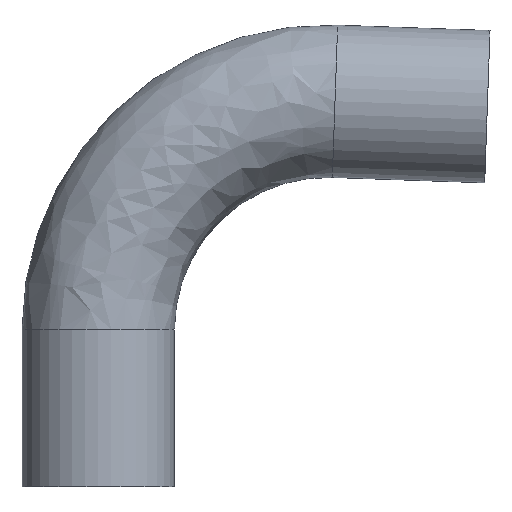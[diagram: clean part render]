
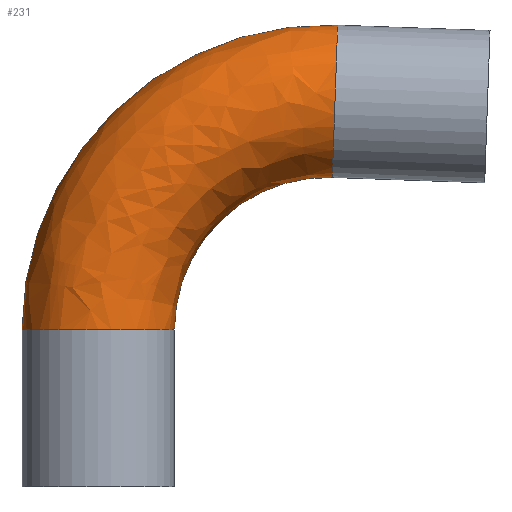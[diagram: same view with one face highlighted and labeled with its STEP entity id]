
A CAD part, top view. The second image highlights one B-rep face of the part: STEP entity #231.
In plain terms, the highlighted free-form (B-spline) face has degree [3, 3] with [4, 4] control points.
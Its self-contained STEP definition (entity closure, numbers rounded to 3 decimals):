
#7 = CARTESIAN_POINT ( 'NONE',  ( 0., 39.165, 0. ) ) ;
#42 = VERTEX_POINT ( 'NONE', #246 ) ;
#44 = CARTESIAN_POINT ( 'NONE',  ( 59.861, 115.368, 0. ) ) ;
#61 = ORIENTED_EDGE ( 'NONE', *, *, #108, .T. ) ;
#74 = CARTESIAN_POINT ( 'NONE',  ( 19.05, 62.136, 0. ) ) ;
#82 = CARTESIAN_POINT ( 'NONE',  ( 58.531, 77.292, 38.1 ) ) ;
#83 = VERTEX_POINT ( 'NONE', #374 ) ;
#94 = CARTESIAN_POINT ( 'NONE',  ( 19.05, 39.165, 0. ) ) ;
#95 = CIRCLE ( 'NONE', #260, 19.05 ) ;
#108 = EDGE_CURVE ( 'NONE', #411, #42, #95, .T. ) ;
#110 = CARTESIAN_POINT ( 'NONE',  ( 59.196, 96.33, 0. ) ) ;
#114 = EDGE_CURVE ( 'NONE', #83, #411, #350, .T. ) ;
#118 = DIRECTION ( 'NONE',  ( -0.999, 0.035, 0. ) ) ;
#122 = CARTESIAN_POINT ( 'NONE',  ( 59.861, 115.368, 38.1 ) ) ;
#138 = DIRECTION ( 'NONE',  ( 0., 1., 0. ) ) ;
#141 = DIRECTION ( 'NONE',  ( -1., 0., 0. ) ) ;
#145 = CARTESIAN_POINT ( 'NONE',  ( 58.531, 77.292, 0. ) ) ;
#147 = VERTEX_POINT ( 'NONE', #157 ) ;
#157 = CARTESIAN_POINT ( 'NONE',  ( -19.05, 39.165, 0. ) ) ;
#178 = CARTESIAN_POINT ( 'NONE',  ( 57.2, 39.165, 0. ) ) ;
#190 = AXIS2_PLACEMENT_3D ( 'NONE', #7, #138, #141 ) ;
#201 = ORIENTED_EDGE ( 'NONE', *, *, #114, .T. ) ;
#203 = CARTESIAN_POINT ( 'NONE',  ( 58.531, 77.292, 0. ) ) ;
#209 = DIRECTION ( 'NONE',  ( 0.035, 0.999, 0. ) ) ;
#214 = AXIS2_PLACEMENT_3D ( 'NONE', #325, #373, #331 ) ;
#231 = ADVANCED_FACE ( 'NONE', ( #369 ), #327, .T. ) ;
#239 = CARTESIAN_POINT ( 'NONE',  ( 19.05, 39.165, 38.1 ) ) ;
#246 = CARTESIAN_POINT ( 'NONE',  ( 59.861, 115.368, 0. ) ) ;
#247 = AXIS2_PLACEMENT_3D ( 'NONE', #178, #286, #304 ) ;
#260 = AXIS2_PLACEMENT_3D ( 'NONE', #110, #118, #209 ) ;
#271 = CIRCLE ( 'NONE', #190, 19.05 ) ;
#286 = DIRECTION ( 'NONE',  ( 0., 0., -1. ) ) ;
#304 = DIRECTION ( 'NONE',  ( -1., 0., 0. ) ) ;
#324 = EDGE_CURVE ( 'NONE', #147, #83, #271, .T. ) ;
#325 = CARTESIAN_POINT ( 'NONE',  ( 57.2, 39.165, 0. ) ) ;
#326 = CARTESIAN_POINT ( 'NONE',  ( 19.05, 62.136, 38.1 ) ) ;
#327 =( BOUNDED_SURFACE ( )  B_SPLINE_SURFACE ( 3, 3, ( 
 ( #388, #351, #390, #44 ),
 ( #408, #451, #434, #122 ),
 ( #239, #326, #379, #82 ),
 ( #94, #74, #333, #203 ) ),
 .UNSPECIFIED., .F., .F., .T. ) 
 B_SPLINE_SURFACE_WITH_KNOTS ( ( 4, 4 ),
 ( 4, 4 ),
 ( 0., 1. ),
 ( 0., 1. ),
 .UNSPECIFIED. ) 
 GEOMETRIC_REPRESENTATION_ITEM ( )  RATIONAL_B_SPLINE_SURFACE ( (
 ( 1., 0.796, 0.796, 1.),
 ( 0.333, 0.265, 0.265, 0.333),
 ( 0.333, 0.265, 0.265, 0.333),
 ( 1., 0.796, 0.796, 1.) ) ) 
 REPRESENTATION_ITEM ( '' )  SURFACE ( )  );
#331 = DIRECTION ( 'NONE',  ( -1., 0., 0. ) ) ;
#333 = CARTESIAN_POINT ( 'NONE',  ( 35.574, 78.093, 0. ) ) ;
#347 = EDGE_LOOP ( 'NONE', ( #438, #201, #61, #453 ) ) ;
#350 = CIRCLE ( 'NONE', #247, 38.15 ) ;
#351 = CARTESIAN_POINT ( 'NONE',  ( -19.05, 85.077, 0. ) ) ;
#369 = FACE_OUTER_BOUND ( 'NONE', #347, .T. ) ;
#373 = DIRECTION ( 'NONE',  ( 0., 0., -1. ) ) ;
#374 = CARTESIAN_POINT ( 'NONE',  ( 19.05, 39.165, 0. ) ) ;
#379 = CARTESIAN_POINT ( 'NONE',  ( 35.574, 78.093, 38.1 ) ) ;
#388 = CARTESIAN_POINT ( 'NONE',  ( -19.05, 39.165, 0. ) ) ;
#390 = CARTESIAN_POINT ( 'NONE',  ( 13.977, 116.971, 0. ) ) ;
#408 = CARTESIAN_POINT ( 'NONE',  ( -19.05, 39.165, 38.1 ) ) ;
#411 = VERTEX_POINT ( 'NONE', #145 ) ;
#416 = EDGE_CURVE ( 'NONE', #147, #42, #461, .T. ) ;
#434 = CARTESIAN_POINT ( 'NONE',  ( 13.977, 116.971, 38.1 ) ) ;
#438 = ORIENTED_EDGE ( 'NONE', *, *, #324, .T. ) ;
#451 = CARTESIAN_POINT ( 'NONE',  ( -19.05, 85.077, 38.1 ) ) ;
#453 = ORIENTED_EDGE ( 'NONE', *, *, #416, .F. ) ;
#461 = CIRCLE ( 'NONE', #214, 76.25 ) ;
